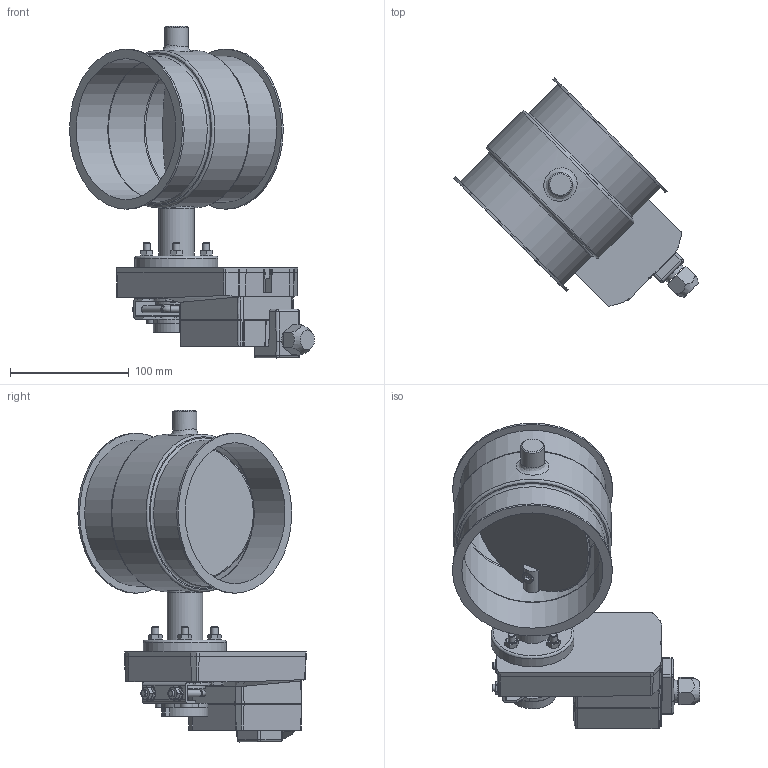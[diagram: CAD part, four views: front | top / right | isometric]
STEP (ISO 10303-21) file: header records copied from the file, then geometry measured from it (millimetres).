
FILE_DESCRIPTION((''),'2;1');
FILE_NAME('U:\Wolfgang\Marcel-3D\fertig\Kapitel 8\1221214.stp','2011-05-03T15:03:52',('TK1'),(''),'Autodesk Inventor 2010','Autodesk Inventor 2010','');
FILE_SCHEMA(('AUTOMOTIVE_DESIGN { 1 0 10303 214 1 1 1 1 }'));
Length unit declared in the file: millimetre
Products named in the file (11): 1221214; Bolzen D15; Scheibe120b; DIN 6912 M6 x 16; 1221210-1; SM24A-Antrieb; BuchseD15 70-50; Distanzstück S; SM24A--A_standard_terminal_1cable; DIN 7991 M6x25; DIN 555 - ersetzt durch DIN EN 24034 M6
Assembly tree (18 placements, depth 3):
  1221214
    Bolzen D15  x2
    Scheibe120b
    DIN 6912 M6 x 16  x2
    1221210-1
    SM24A-Antrieb
      BuchseD15 70-50
      Distanzstück S
      SM24A--A_standard_terminal_1cable
      DIN 7991 M6x25  x4
      DIN 555 - ersetzt durch DIN EN 24034 M6  x4
Bounding box: 206.55 x 192.47 x 280 mm (x, y, z)
Volume: 806614.8 mm3; surface area: 284704.9 mm2
Topology: 20 solids, 20 shells, 730 faces, 1805 edges, 1154 vertices
Faces by surface type: plane 383, cylinder 187, bspline 90, cone 38, torus 24, sphere 8
Full cylindrical faces by diameter (mm): 3 x2, 3.6 x2, 4.2 x4, 4.773 x4, 4.813 x4, 5.1 x1, 5.25 x4, 6 x14, 7 x4, 9.742 x1, 10 x4, 10.083 x1, 12 x4, 14 x2, 15 x6, 15.5 x1, 18.5 x1, 20 x1, 24 x1, 25.194 x1, 26 x2, 30 x2, 30.042 x1, 35 x2, 70 x1, 119 x3, 120 x1, 123 x2, 128 x1, 129 x1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
Entity records: 20478 total; most frequent: CARTESIAN_POINT 5535, ORIENTED_EDGE 2878, DIRECTION 2794, EDGE_CURVE 1439, AXIS2_PLACEMENT_3D 1006, VERTEX_POINT 986, EDGE_LOOP 821, VECTOR 782
